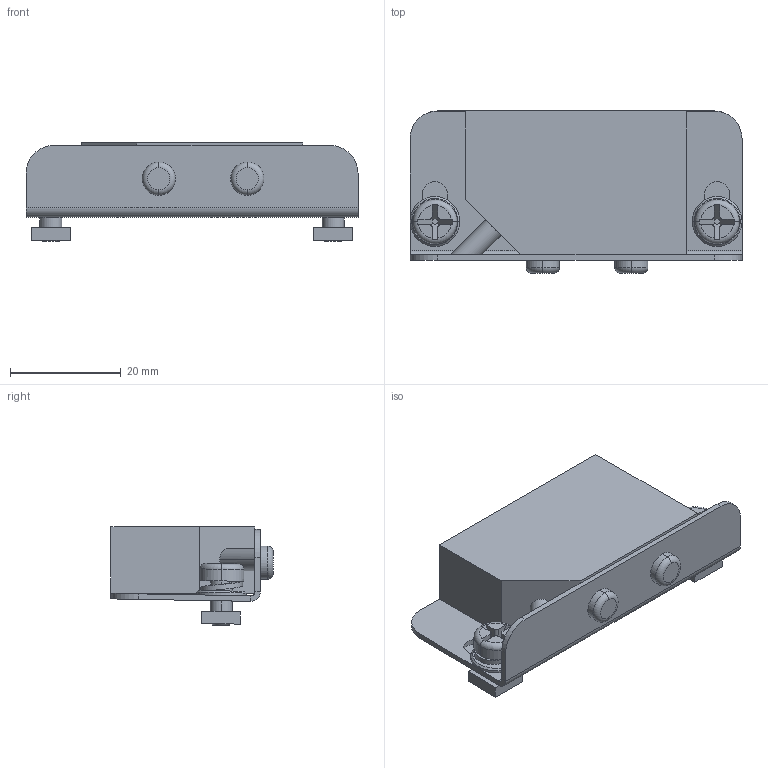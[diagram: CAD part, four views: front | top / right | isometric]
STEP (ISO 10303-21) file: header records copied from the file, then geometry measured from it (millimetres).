
FILE_DESCRIPTION((''),'2;1');
FILE_NAME('L4CB0011_SW0001','2009-10-28T',('JH42735'),(''),'PRO/ENGINEER BY PARAMETRIC TECHNOLOGY CORPORATION, 2007390','PRO/ENGINEER BY PARAMETRIC TECHNOLOGY CORPORATION, 2007390','');
FILE_SCHEMA(('AUTOMOTIVE_DESIGN_CC2 { 1 2 10303 214 -1 1 5 2 }'));
Length unit declared in the file: millimetre
Products named in the file (1): L4CB0011_SW0001
Bounding box: 60 x 29.32 x 17.82 mm (x, y, z)
Volume: 15003.7 mm3; surface area: 8768.3 mm2
Topology: 1 solids, 1 shells, 178 faces, 464 edges, 300 vertices
Faces by surface type: plane 96, cylinder 58, bspline 8, cone 8, torus 8
Entity records: 8525 total; most frequent: CARTESIAN_POINT 2130, ORIENTED_EDGE 928, DIRECTION 860, PRESENTATION_STYLE_ASSIGNMENT 542, STYLED_ITEM 501, CURVE_STYLE 464, EDGE_CURVE 464, AXIS2_PLACEMENT_3D 305
